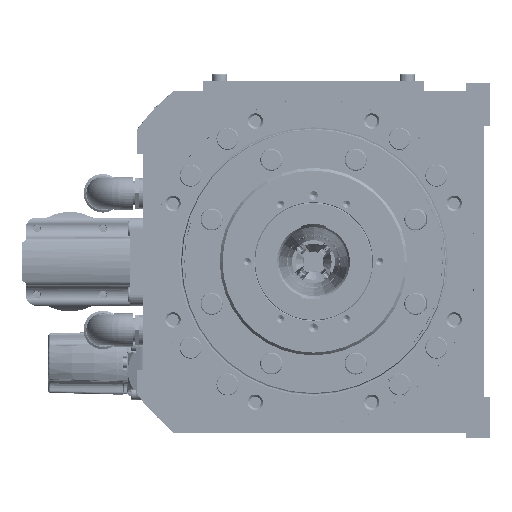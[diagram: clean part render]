
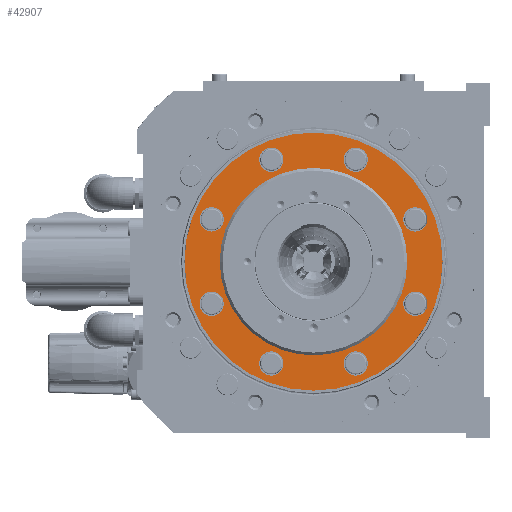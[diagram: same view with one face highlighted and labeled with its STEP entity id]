
A CAD part, left-side view. The second image highlights one B-rep face of the part: STEP entity #42907.
In plain terms, the highlighted planar face has unit normal (-1, 0, 0).
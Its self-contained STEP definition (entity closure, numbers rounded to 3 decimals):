
#14974=CIRCLE('',#110615,5.5);
#14976=CIRCLE('',#110618,5.5);
#15007=CIRCLE('',#110666,58.5);
#15008=CIRCLE('',#110668,5.5);
#15009=CIRCLE('',#110669,5.5);
#15010=CIRCLE('',#110670,5.5);
#15011=CIRCLE('',#110671,5.5);
#15012=CIRCLE('',#110672,5.5);
#15013=CIRCLE('',#110673,5.5);
#15014=CIRCLE('',#110674,42.5);
#18697=FACE_BOUND('',#55134,.T.);
#18698=FACE_BOUND('',#55135,.T.);
#18699=FACE_BOUND('',#55136,.T.);
#18700=FACE_BOUND('',#55137,.T.);
#18701=FACE_BOUND('',#55138,.T.);
#18702=FACE_BOUND('',#55139,.T.);
#18703=FACE_BOUND('',#55140,.T.);
#18704=FACE_BOUND('',#55141,.T.);
#18705=FACE_BOUND('',#55142,.T.);
#18706=FACE_BOUND('',#55143,.T.);
#42907=ADVANCED_FACE('',(#18697,#18698,#18699,#18700,#18701,#18702,#18703,
#18704,#18705,#18706),#47107,.F.);
#47107=PLANE('',#110675);
#55134=EDGE_LOOP('',(#70733));
#55135=EDGE_LOOP('',(#70734));
#55136=EDGE_LOOP('',(#70735));
#55137=EDGE_LOOP('',(#70736));
#55138=EDGE_LOOP('',(#70737));
#55139=EDGE_LOOP('',(#70738));
#55140=EDGE_LOOP('',(#70739));
#55141=EDGE_LOOP('',(#70740));
#55142=EDGE_LOOP('',(#70741));
#55143=EDGE_LOOP('',(#70742));
#70733=ORIENTED_EDGE('',*,*,#98204,.T.);
#70734=ORIENTED_EDGE('',*,*,#98205,.T.);
#70735=ORIENTED_EDGE('',*,*,#98206,.T.);
#70736=ORIENTED_EDGE('',*,*,#98153,.T.);
#70737=ORIENTED_EDGE('',*,*,#98150,.T.);
#70738=ORIENTED_EDGE('',*,*,#98207,.T.);
#70739=ORIENTED_EDGE('',*,*,#98208,.T.);
#70740=ORIENTED_EDGE('',*,*,#98209,.T.);
#70741=ORIENTED_EDGE('',*,*,#98210,.F.);
#70742=ORIENTED_EDGE('',*,*,#98203,.T.);
#87184=VERTEX_POINT('',#172171);
#87187=VERTEX_POINT('',#172215);
#87233=VERTEX_POINT('',#172765);
#87234=VERTEX_POINT('',#172768);
#87235=VERTEX_POINT('',#172770);
#87236=VERTEX_POINT('',#172772);
#87237=VERTEX_POINT('',#172774);
#87238=VERTEX_POINT('',#172776);
#87239=VERTEX_POINT('',#172778);
#87240=VERTEX_POINT('',#172780);
#98150=EDGE_CURVE('',#87184,#87184,#14974,.T.);
#98153=EDGE_CURVE('',#87187,#87187,#14976,.T.);
#98203=EDGE_CURVE('',#87233,#87233,#15007,.T.);
#98204=EDGE_CURVE('',#87234,#87234,#15008,.T.);
#98205=EDGE_CURVE('',#87235,#87235,#15009,.T.);
#98206=EDGE_CURVE('',#87236,#87236,#15010,.T.);
#98207=EDGE_CURVE('',#87237,#87237,#15011,.T.);
#98208=EDGE_CURVE('',#87238,#87238,#15012,.T.);
#98209=EDGE_CURVE('',#87239,#87239,#15013,.T.);
#98210=EDGE_CURVE('',#87240,#87240,#15014,.T.);
#110615=AXIS2_PLACEMENT_3D('',#172170,#126159,#126160);
#110618=AXIS2_PLACEMENT_3D('',#172214,#126165,#126166);
#110666=AXIS2_PLACEMENT_3D('',#172764,#126261,#126262);
#110668=AXIS2_PLACEMENT_3D('',#172767,#126265,#126266);
#110669=AXIS2_PLACEMENT_3D('',#172769,#126267,#126268);
#110670=AXIS2_PLACEMENT_3D('',#172771,#126269,#126270);
#110671=AXIS2_PLACEMENT_3D('',#172773,#126271,#126272);
#110672=AXIS2_PLACEMENT_3D('',#172775,#126273,#126274);
#110673=AXIS2_PLACEMENT_3D('',#172777,#126275,#126276);
#110674=AXIS2_PLACEMENT_3D('',#172779,#126277,#126278);
#110675=AXIS2_PLACEMENT_3D('',#172781,#126279,#126280);
#126159=DIRECTION('',(1.,0.,0.));
#126160=DIRECTION('',(0.,0.707,0.707));
#126165=DIRECTION('',(1.,0.,0.));
#126166=DIRECTION('',(0.,0.,1.));
#126261=DIRECTION('',(-1.,0.,0.));
#126262=DIRECTION('',(0.,0.,1.));
#126265=DIRECTION('',(1.,0.,0.));
#126266=DIRECTION('',(0.,-0.707,-0.707));
#126267=DIRECTION('',(1.,0.,0.));
#126268=DIRECTION('',(0.,-1.,0.));
#126269=DIRECTION('',(1.,0.,0.));
#126270=DIRECTION('',(0.,-0.707,0.707));
#126271=DIRECTION('',(1.,0.,0.));
#126272=DIRECTION('',(0.,1.,0.));
#126273=DIRECTION('',(1.,0.,0.));
#126274=DIRECTION('',(0.,0.707,-0.707));
#126275=DIRECTION('',(1.,0.,0.));
#126276=DIRECTION('',(0.,0.,-1.));
#126277=DIRECTION('',(-1.,0.,0.));
#126278=DIRECTION('',(0.,0.,1.));
#126279=DIRECTION('',(1.,0.,0.));
#126280=DIRECTION('',(0.,0.,-1.));
#172170=CARTESIAN_POINT('',(12.5,-46.194,19.134));
#172171=CARTESIAN_POINT('',(12.5,-42.305,23.023));
#172214=CARTESIAN_POINT('',(12.5,-46.194,-19.134));
#172215=CARTESIAN_POINT('',(12.5,-46.194,-13.634));
#172764=CARTESIAN_POINT('',(12.5,0.,0.));
#172765=CARTESIAN_POINT('',(12.5,0.,58.5));
#172767=CARTESIAN_POINT('',(12.5,46.194,-19.134));
#172768=CARTESIAN_POINT('',(12.5,42.305,-23.023));
#172769=CARTESIAN_POINT('',(12.5,19.134,-46.194));
#172770=CARTESIAN_POINT('',(12.5,13.634,-46.194));
#172771=CARTESIAN_POINT('',(12.5,-19.134,-46.194));
#172772=CARTESIAN_POINT('',(12.5,-23.023,-42.305));
#172773=CARTESIAN_POINT('',(12.5,-19.134,46.194));
#172774=CARTESIAN_POINT('',(12.5,-13.634,46.194));
#172775=CARTESIAN_POINT('',(12.5,19.134,46.194));
#172776=CARTESIAN_POINT('',(12.5,23.023,42.305));
#172777=CARTESIAN_POINT('',(12.5,46.194,19.134));
#172778=CARTESIAN_POINT('',(12.5,46.194,13.634));
#172779=CARTESIAN_POINT('',(12.5,0.,0.));
#172780=CARTESIAN_POINT('',(12.5,0.,42.5));
#172781=CARTESIAN_POINT('',(12.5,58.5,0.));
